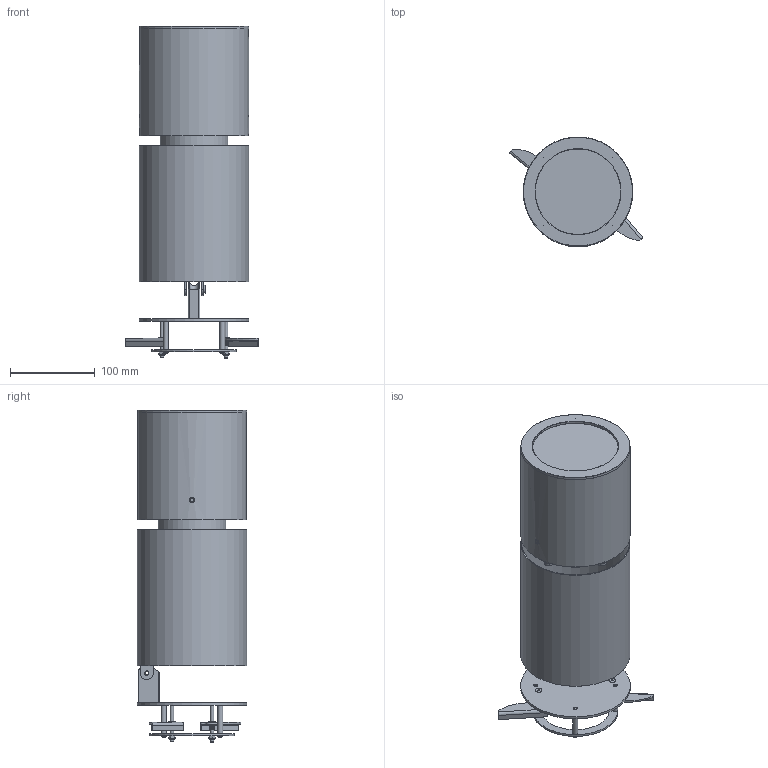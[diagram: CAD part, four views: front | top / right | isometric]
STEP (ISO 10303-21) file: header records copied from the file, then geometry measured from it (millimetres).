
FILE_DESCRIPTION(/* description */ ('Unknown'),/* implementation_level */ '2;1');
FILE_NAME(/* name */ 'Ambiane HP111 Surface Mount Tilt',/* time_stamp */ '2024-08-29T09:47:31+02:00',/* author */ ('Unknown'),/* organization */ ('Unknown'),/* preprocessor_version */ 'ST-DEVELOPER v19.4',/* originating_system */ 'Solid Edge',/* authorisation */ 'Unknown');
FILE_SCHEMA (('AUTOMOTIVE_DESIGN {1 0 10303 214 3 1 1}'));
Length unit declared in the file: millimetre
Products named in the file (37): Ambiane HP111 Surface Mount Tilt; 17442530 nosník; 18060209 Lisovací šroub M3x10; 11018360 nosník; 17442539 Kryt reflektoru 20st -lisování; 11018372 Kryt reflektoru 20st; 18540096 Matice M4 nízká; 18050003 Podložka pérová 4; 18060306 Lisovací šroub GS4-A-12; 19430536 Front Part; 17442529 kryt - lisování; 11031098 kryt; 11018351 deska krytu; 12051729 trubka krytu; 14060984 Sklo D107 tl.3mm; SFM Tilt Z嫛鮀; 18010054 Šroub kø. pulkul. M3x10; 17442531 rameno aretace ; 11018353 packa; 18040015 Matice zálisná M4 AVDEL; 18540020 Matice samosvorná M4; 12010400 Distance D6xL33 M3; 18710363 Šroub záp, s vnitø, šestihr, M 4x45 A2 BLACK; 11418355 kruh; 17443012 sfmt deska - liosování; 11019554 Deska sfmt; 12452000 Rameno 30st WMT; 18010032 Šr.køíž.zápustný M3x8; 11431232 Z嫛鮀 HP111 Surface Mount Tilt ; 17043013 Oko lisování; 18040002 Matice zálisná M5; 11019557 Deska 3; 11019556 Deska 2; 11019655 Deska z嫛鮀u HP111 Surface Mount Tilt; 11431231 Kryt chladièe HP111 SFM Tilt ; 11018357 Kryt chladièe; 11019654 Deska krytu HP111 SFM Tilt
Assembly tree (60 placements, depth 4):
  Ambiane HP111 Surface Mount Tilt
    17442530 nosník
      18060209 Lisovací šroub M3x10  x4
      11018360 nosník
    17442539 Kryt reflektoru 20st -lisování
      11018372 Kryt reflektoru 20st
      18540096 Matice M4 nízká  x2
      18050003 Podložka pérová 4  x2
      18060306 Lisovací šroub GS4-A-12  x2
    19430536 Front Part
    17442529 kryt - lisování
      18060209 Lisovací šroub M3x10  x4
      11031098 kryt
        11018351 deska krytu
        12051729 trubka krytu
    14060984 Sklo D107 tl.3mm
    SFM Tilt Z嫛鮀
      18010054 Šroub kø. pulkul. M3x10  x4
      17442531 rameno aretace   x2
        11018353 packa
        18040015 Matice zálisná M4 AVDEL
      18540020 Matice samosvorná M4  x2
      12010400 Distance D6xL33 M3  x4
      18710363 Šroub záp, s vnitø, šestihr, M 4x45 A2 BLACK  x2
      11418355 kruh
      17443012 sfmt deska - liosování
        18060209 Lisovací šroub M3x10  x4
        11019554 Deska sfmt
      12452000 Rameno 30st WMT
      18010032 Šr.køíž.zápustný M3x8  x2
    11431232 Z嫛鮀 HP111 Surface Mount Tilt 
      17043013 Oko lisování
        18040002 Matice zálisná M5
        11019557 Deska 3
      11019556 Deska 2
      11019655 Deska z嫛鮀u HP111 Surface Mount Tilt
    11431231 Kryt chladièe HP111 SFM Tilt 
      11018357 Kryt chladièe
      11019654 Deska krytu HP111 SFM Tilt
Bounding box: 157.76 x 129 x 390.9 mm (x, y, z)
Volume: 277253.6 mm3; surface area: 375591.6 mm2
Topology: 51 solids, 51 shells, 1038 faces, 2483 edges, 1586 vertices
Faces by surface type: plane 450, cylinder 304, cone 120, bspline 83, torus 69, sphere 12
Full cylindrical faces by diameter (mm): 2.459 x2, 2.5 x4, 3 x18, 3.1 x4, 3.15 x4, 3.2 x12, 3.242 x8, 3.3 x2, 3.6 x2, 3.7 x9, 4 x10, 4.2 x3, 4.3 x2, 4.5 x2, 5 x12, 5.2 x1, 5.3 x1, 5.5 x4, 5.6 x4, 5.9 x2, 6 x8, 6.1 x2, 6.4 x1, 6.5 x1, 6.55 x2, 7.1 x2, 8 x4, 8.8 x2, 9 x3, 10 x2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
Entity records: 26159 total; most frequent: CARTESIAN_POINT 7673, DIRECTION 3646, ORIENTED_EDGE 3394, EDGE_CURVE 1697, AXIS2_PLACEMENT_3D 1434, VERTEX_POINT 1176, FACE_BOUND 1075, EDGE_LOOP 1069
